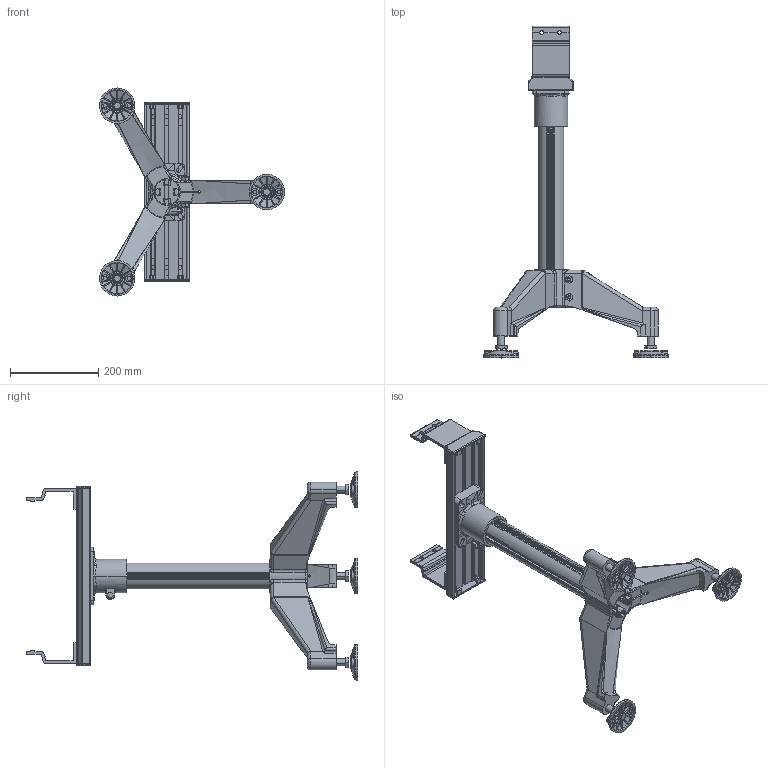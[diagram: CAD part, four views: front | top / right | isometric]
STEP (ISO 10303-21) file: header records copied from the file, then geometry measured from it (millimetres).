
FILE_DESCRIPTION (( 'STEP AP214' ), '1' );
FILE_NAME ('F2-1200-P3.STEP', '2010-03-11T09:12:33', ( '.' ), ( '' ), 'SwSTEP 2.0', 'SolidWorks 2009', '' );
FILE_SCHEMA (( 'AUTOMOTIVE_DESIGN' ));
Length unit declared in the file: millimetre
Products named in the file (1): F2-1200-P3
Bounding box: 418.25 x 750.06 x 470.58 mm (x, y, z)
Surface area: 802536.7 mm2 (no closed solid volume)
Topology: 0 solids, 24 shells, 1154 faces, 3783 edges, 2491 vertices
Faces by surface type: plane 463, cylinder 316, cone 125, bspline 120, torus 89, sphere 41
Entity records: 75652 total; most frequent: CARTESIAN_POINT 31967, ORIENTED_EDGE 6396, DIRECTION 6121, EDGE_CURVE 3772, VERTEX_POINT 2491, AXIS2_PLACEMENT_3D 2305, LINE 1511, VECTOR 1511
